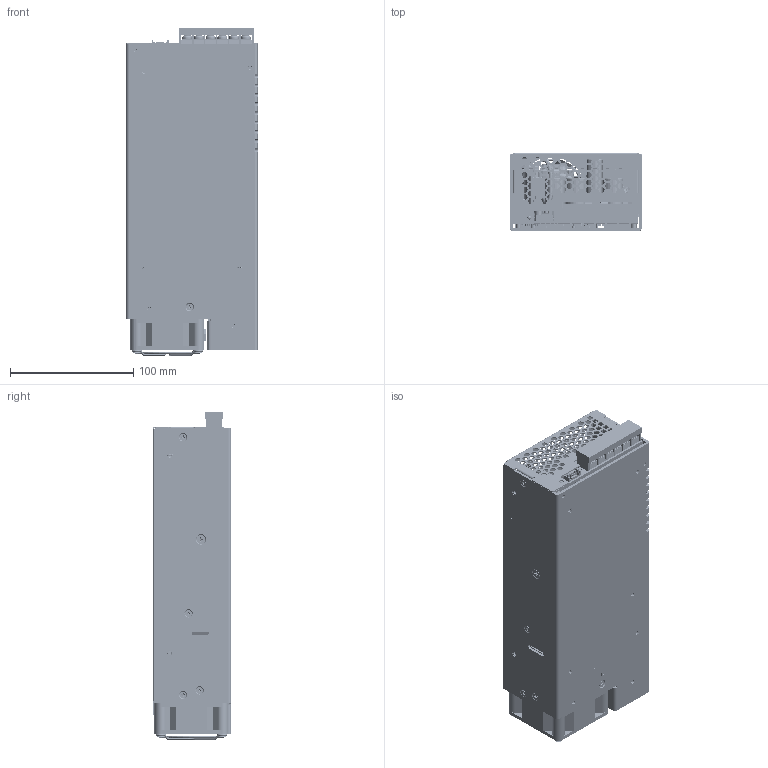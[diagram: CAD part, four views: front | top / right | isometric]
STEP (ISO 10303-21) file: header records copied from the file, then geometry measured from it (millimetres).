
FILE_DESCRIPTION (( 'STEP AP203' ), '1' );
FILE_NAME ('FINAL ASSY HHP650.STEP', '2014-02-06T06:28:11', ( 'LTorio' ), ( 'Hewlett-Packard Company' ), 'SwSTEP 2.0', 'SolidWorks 2013', '' );
FILE_SCHEMA (( 'CONFIG_CONTROL_DESIGN' ));
Length unit declared in the file: millimetre
Products named in the file (175): SEC CU FOIL 2T VER; TO247 WITH TUBE; CORE-BBAR 4 ASSY; BBAR SECONDARY 3 (10007767); TERMINAL BLOCK 6P M4 SCREW 9_5MM CTR RA (10014610_COVER)_6P; Capacitor Elec_08mm D_13mm H; ASSY HEATSINK DIODE COMPLETE; Part2^ASSY PCB DBOARD HHP650; FAN-GARD-60X60-01; Capacitor Disc 10.9mmD_0.300" C; SO14 PACKAGE; M3X6 PFH 90 DEG CLR (10001669); Capacitor Elec_16mm D_35; HEATSINK BRIDGE (10014724); Capacitor Poly Film Axial_5.2X12X0.6; ASSY TRF EER42 TYPE1; Washer Spiltlock M3 6.2MM OD(10001678); Part10^ASSY PCB MAINBOARD HHP650; Tube 38mm; HTSK SECONDARY (10007599); TRF LEAD NEGATIVE; TO220_3P_01; Part4^ASSY PCB MAINBOARD HHP650; THERMISTOR OD 3MM; U CHANNEL FORMED HHP650 (10013013); TERMINAL BLOCK 3P 3_5MM SCREW 9_5MM VER (10007696)_3P; INSULATOR THERMALLY COND HHP650 (10014810); CONN_JST_B2B_PH_KL; BUSBAR SECONDARY 2 (10007601); JUMPER SPC02SYAN; 10008494 SCREW M3X30 90DEG; Capacitor Elec_35mm D X40_30mm H; OPTO_SMD; INSULATOR BUSHING (300045); Capacitor Film_19X30X31.5_21mm H; HTSK BRIDGE (10014724); Wire 38mm; TERMINAL BLOCK 6P M4 SCREW 9_5MM CTR RA (10014610)_6P; NUT HEX M3 CLR STL Z1 (10001679)_M3; Part11^ASSY PCB MAINBOARD HHP650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
Assembly tree (260 placements, depth 5):
  Part2^ASSY PCB DBOARD HHP650
  Part10^ASSY PCB MAINBOARD HHP650
  Part4^ASSY PCB MAINBOARD HHP650
  Part11^ASSY PCB MAINBOARD HHP650
  Part5^ASSY PCB MAINBOARD HHP650
Bounding box: 106.97 x 63.5 x 265.7 mm (x, y, z)
Volume: 631256.7 mm3; surface area: 634078.3 mm2
Topology: 412 solids, 453 shells, 13862 faces, 33376 edges, 20656 vertices
Faces by surface type: plane 7159, cylinder 3498, torus 2438, cone 568, bspline 161, sphere 38
Entity records: 325912 total; most frequent: CARTESIAN_POINT 58575, DIRECTION 53373, ORIENTED_EDGE 49356, EDGE_CURVE 24682, AXIS2_PLACEMENT_3D 18894, LINE 15585, VECTOR 15585, VERTEX_POINT 15390
